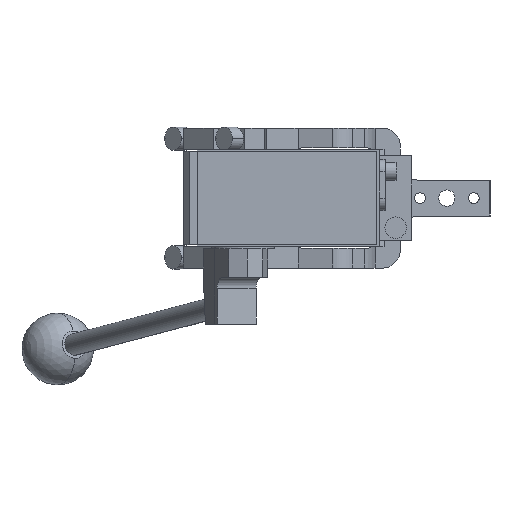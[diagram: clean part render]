
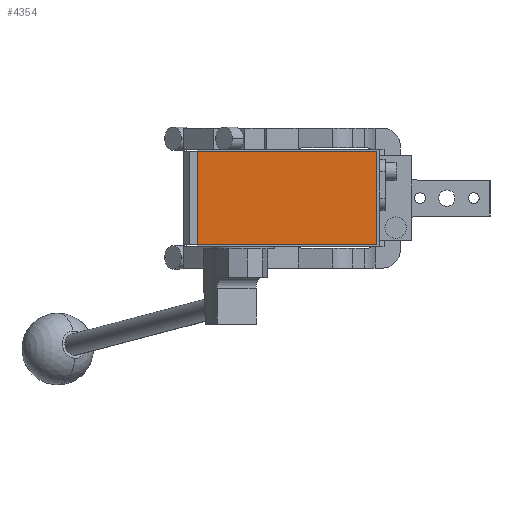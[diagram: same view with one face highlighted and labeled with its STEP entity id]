
A CAD part, front view. The second image highlights one B-rep face of the part: STEP entity #4354.
In plain terms, the highlighted planar face has unit normal (0, -1, 0).
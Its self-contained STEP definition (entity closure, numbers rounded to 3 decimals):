
#100 = DIRECTION ( 'NONE',  ( 1., 0., 0. ) ) ;
#151 = CARTESIAN_POINT ( 'NONE',  ( -19., -286.5, -26. ) ) ;
#232 = CARTESIAN_POINT ( 'NONE',  ( 0., -286.5, 0. ) ) ;
#355 = VECTOR ( 'NONE', #12147, 1000. ) ;
#441 = VECTOR ( 'NONE', #100, 1000. ) ;
#627 = VECTOR ( 'NONE', #9190, 1000. ) ;
#670 = VERTEX_POINT ( 'NONE', #7562 ) ;
#924 = ORIENTED_EDGE ( 'NONE', *, *, #14311, .T. ) ;
#1079 = DIRECTION ( 'NONE',  ( 0., 0., -1. ) ) ;
#1976 = ORIENTED_EDGE ( 'NONE', *, *, #13430, .T. ) ;
#2691 = CARTESIAN_POINT ( 'NONE',  ( 81., -286.5, 26. ) ) ;
#2705 = LINE ( 'NONE', #4762, #441 ) ;
#3448 = FACE_OUTER_BOUND ( 'NONE', #12673, .T. ) ;
#4086 = VERTEX_POINT ( 'NONE', #2691 ) ;
#4354 = ADVANCED_FACE ( 'NONE', ( #3448 ), #7167, .T. ) ;
#4380 = VERTEX_POINT ( 'NONE', #151 ) ;
#4762 = CARTESIAN_POINT ( 'NONE',  ( -19., -286.5, -26. ) ) ;
#5873 = DIRECTION ( 'NONE',  ( 0., -1., 0. ) ) ;
#6513 = ORIENTED_EDGE ( 'NONE', *, *, #12681, .T. ) ;
#7110 = LINE ( 'NONE', #13823, #627 ) ;
#7167 = PLANE ( 'NONE',  #10833 ) ;
#7343 = CARTESIAN_POINT ( 'NONE',  ( 81., -286.5, -26. ) ) ;
#7562 = CARTESIAN_POINT ( 'NONE',  ( -19., -286.5, 26. ) ) ;
#8412 = LINE ( 'NONE', #11922, #355 ) ;
#9190 = DIRECTION ( 'NONE',  ( 0., 0., 1. ) ) ;
#9323 = DIRECTION ( 'NONE',  ( 0., 0., -1. ) ) ;
#10254 = LINE ( 'NONE', #12380, #14808 ) ;
#10833 = AXIS2_PLACEMENT_3D ( 'NONE', #232, #5873, #9323 ) ;
#11467 = EDGE_CURVE ( 'NONE', #12667, #4086, #7110, .T. ) ;
#11922 = CARTESIAN_POINT ( 'NONE',  ( -19., -286.5, 26. ) ) ;
#12147 = DIRECTION ( 'NONE',  ( -1., 0., 0. ) ) ;
#12380 = CARTESIAN_POINT ( 'NONE',  ( -19., -286.5, 26. ) ) ;
#12667 = VERTEX_POINT ( 'NONE', #7343 ) ;
#12673 = EDGE_LOOP ( 'NONE', ( #1976, #924, #14967, #6513 ) ) ;
#12681 = EDGE_CURVE ( 'NONE', #4086, #670, #8412, .T. ) ;
#13430 = EDGE_CURVE ( 'NONE', #670, #4380, #10254, .T. ) ;
#13823 = CARTESIAN_POINT ( 'NONE',  ( 81., -286.5, 26. ) ) ;
#14311 = EDGE_CURVE ( 'NONE', #4380, #12667, #2705, .T. ) ;
#14808 = VECTOR ( 'NONE', #1079, 1000. ) ;
#14967 = ORIENTED_EDGE ( 'NONE', *, *, #11467, .T. ) ;
